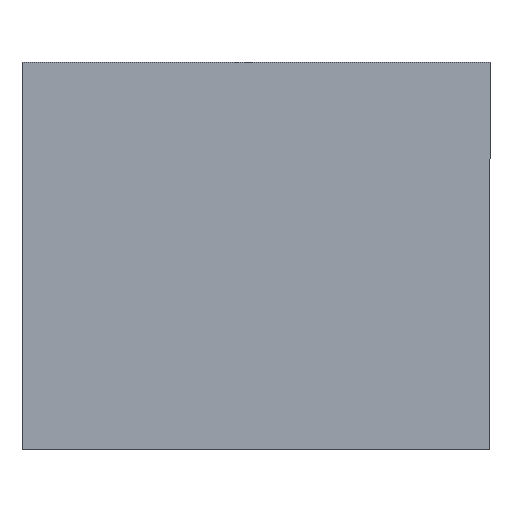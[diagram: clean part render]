
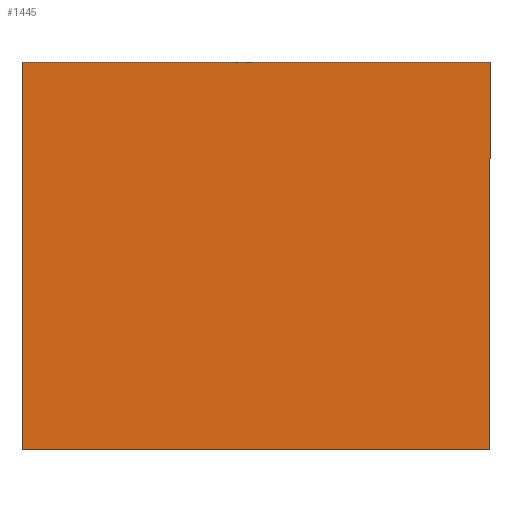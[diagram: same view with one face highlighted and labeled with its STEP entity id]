
A CAD part, front view. The second image highlights one B-rep face of the part: STEP entity #1445.
In plain terms, the highlighted planar face has unit normal (0, -1, 0).
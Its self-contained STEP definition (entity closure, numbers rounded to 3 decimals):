
#1 = LINE ( 'NONE', #17416, #6322 ) ;
#1316 = CARTESIAN_POINT ( 'NONE',  ( -322.211, -220.274, -255.809 ) ) ;
#1445 = ADVANCED_FACE ( 'NONE', ( #19806 ), #9262, .T. ) ;
#2561 = DIRECTION ( 'NONE',  ( 0., 0., -1. ) ) ;
#2774 = EDGE_CURVE ( 'NONE', #9678, #16828, #1, .T. ) ;
#3703 = EDGE_CURVE ( 'NONE', #7057, #9678, #9842, .T. ) ;
#3875 = EDGE_CURVE ( 'NONE', #7383, #7057, #11906, .T. ) ;
#5976 = VECTOR ( 'NONE', #15083, 1000. ) ;
#6322 = VECTOR ( 'NONE', #7107, 1000. ) ;
#7057 = VERTEX_POINT ( 'NONE', #21704 ) ;
#7107 = DIRECTION ( 'NONE',  ( 1., 0., 0. ) ) ;
#7383 = VERTEX_POINT ( 'NONE', #8008 ) ;
#7829 = DIRECTION ( 'NONE',  ( 0., 0., -1. ) ) ;
#7944 = CARTESIAN_POINT ( 'NONE',  ( 322.211, -220.274, -255.809 ) ) ;
#8008 = CARTESIAN_POINT ( 'NONE',  ( 322.211, -220.274, -255.809 ) ) ;
#8176 = CARTESIAN_POINT ( 'NONE',  ( 322.211, -220.274, 277.11 ) ) ;
#9252 = ORIENTED_EDGE ( 'NONE', *, *, #2774, .F. ) ;
#9262 = PLANE ( 'NONE',  #21363 ) ;
#9678 = VERTEX_POINT ( 'NONE', #14462 ) ;
#9842 = LINE ( 'NONE', #1316, #5976 ) ;
#11224 = LINE ( 'NONE', #7944, #19876 ) ;
#11369 = ORIENTED_EDGE ( 'NONE', *, *, #3875, .F. ) ;
#11820 = EDGE_LOOP ( 'NONE', ( #20506, #11369, #19637, #9252 ) ) ;
#11906 = LINE ( 'NONE', #19060, #22014 ) ;
#13211 = DIRECTION ( 'NONE',  ( 0., -1., 0. ) ) ;
#14462 = CARTESIAN_POINT ( 'NONE',  ( -322.211, -220.274, 277.11 ) ) ;
#14647 = CARTESIAN_POINT ( 'NONE',  ( 0., -220.274, 0. ) ) ;
#15083 = DIRECTION ( 'NONE',  ( 0., 0., 1. ) ) ;
#15551 = DIRECTION ( 'NONE',  ( -1., 0., 0. ) ) ;
#16785 = EDGE_CURVE ( 'NONE', #16828, #7383, #11224, .T. ) ;
#16828 = VERTEX_POINT ( 'NONE', #8176 ) ;
#17416 = CARTESIAN_POINT ( 'NONE',  ( -322.211, -220.274, 277.11 ) ) ;
#19060 = CARTESIAN_POINT ( 'NONE',  ( -322.211, -220.274, -255.809 ) ) ;
#19637 = ORIENTED_EDGE ( 'NONE', *, *, #16785, .F. ) ;
#19806 = FACE_OUTER_BOUND ( 'NONE', #11820, .T. ) ;
#19876 = VECTOR ( 'NONE', #7829, 1000. ) ;
#20506 = ORIENTED_EDGE ( 'NONE', *, *, #3703, .F. ) ;
#21363 = AXIS2_PLACEMENT_3D ( 'NONE', #14647, #13211, #2561 ) ;
#21704 = CARTESIAN_POINT ( 'NONE',  ( -322.211, -220.274, -255.809 ) ) ;
#22014 = VECTOR ( 'NONE', #15551, 1000. ) ;
